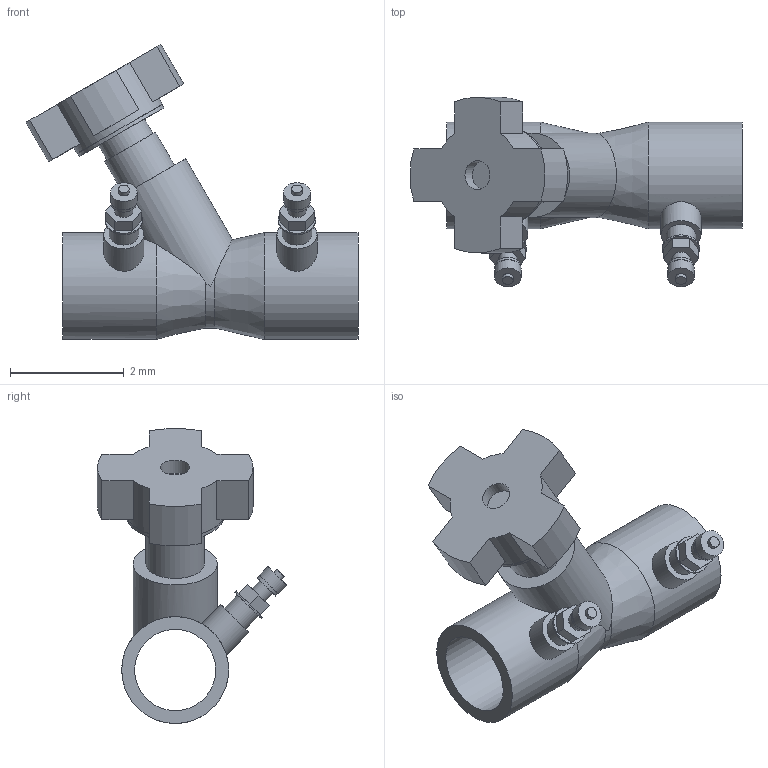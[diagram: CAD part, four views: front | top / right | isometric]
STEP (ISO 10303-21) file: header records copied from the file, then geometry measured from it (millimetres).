
FILE_DESCRIPTION(('Open CASCADE Model'),'2;1');
FILE_NAME('Open CASCADE Shape Model','2021-11-01T16:04:36',('Author'),( 'Open CASCADE'),'Open CASCADE STEP processor 7.3','Open CASCADE 7.3' ,'Unknown');
FILE_SCHEMA(('AUTOMOTIVE_DESIGN { 1 0 10303 214 1 1 1 1 }'));
Length unit declared in the file: millimetre
Products named in the file (1): Open CASCADE STEP translator 7.3 1
Bounding box: 5.85 x 3.34 x 5.2 mm (x, y, z)
Volume: 12.6 mm3; surface area: 87.2 mm2
Topology: 1 solids, 1 shells, 78 faces, 168 edges, 113 vertices
Faces by surface type: plane 48, cylinder 28, cone 2
Full cylindrical faces by diameter (mm): 0.19 x2, 0.32 x2, 0.455 x2, 0.468 x2, 0.51 x1, 0.52 x2, 0.66 x2, 0.708 x2, 0.935 x1, 1.03 x1, 1.43 x1, 1.485 x1, 1.72 x1, 1.735 x1, 1.883 x2
Entity records: 5438 total; most frequent: CARTESIAN_POINT 1980, DIRECTION 647, ORIENTED_EDGE 336, PCURVE 336, DEFINITIONAL_REPRESENTATION 336, LINE 321, VECTOR 321, EDGE_CURVE 168
